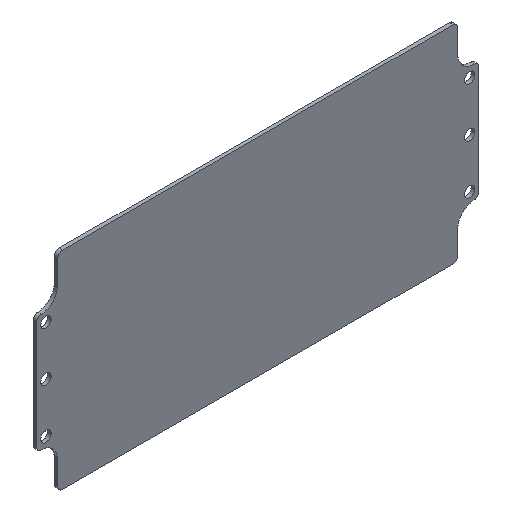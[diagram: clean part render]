
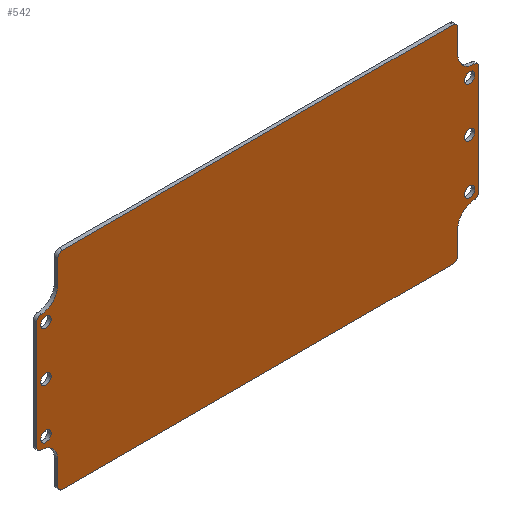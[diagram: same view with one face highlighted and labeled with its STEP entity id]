
A CAD part, isometric view. The second image highlights one B-rep face of the part: STEP entity #542.
In plain terms, the highlighted planar face has unit normal (0, -1, 0).
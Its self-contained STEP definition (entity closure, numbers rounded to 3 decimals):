
#15=FACE_BOUND('',#79,.T.);
#16=FACE_BOUND('',#80,.T.);
#17=FACE_BOUND('',#81,.T.);
#18=FACE_BOUND('',#82,.T.);
#19=FACE_BOUND('',#83,.T.);
#20=FACE_BOUND('',#84,.T.);
#29=PLANE('',#615);
#50=FACE_OUTER_BOUND('',#78,.T.);
#78=EDGE_LOOP('',(#407,#408,#409,#410,#411,#412,#413,#414,#415,#416,#417,
#418,#419,#420,#421,#422,#423,#424,#425,#426));
#79=EDGE_LOOP('',(#427));
#80=EDGE_LOOP('',(#428));
#81=EDGE_LOOP('',(#429));
#82=EDGE_LOOP('',(#430));
#83=EDGE_LOOP('',(#431));
#84=EDGE_LOOP('',(#432));
#113=LINE('',#864,#155);
#120=LINE('',#888,#162);
#126=LINE('',#909,#168);
#127=LINE('',#912,#169);
#128=LINE('',#916,#170);
#129=LINE('',#921,#171);
#130=LINE('',#924,#172);
#131=LINE('',#928,#173);
#155=VECTOR('',#698,10.);
#162=VECTOR('',#719,10.);
#168=VECTOR('',#739,10.);
#169=VECTOR('',#742,10.);
#170=VECTOR('',#745,10.);
#171=VECTOR('',#750,10.);
#172=VECTOR('',#753,10.);
#173=VECTOR('',#756,10.);
#190=CIRCLE('',#582,2.2);
#192=CIRCLE('',#585,2.2);
#194=CIRCLE('',#588,2.2);
#196=CIRCLE('',#591,2.2);
#198=CIRCLE('',#594,2.2);
#200=CIRCLE('',#597,2.2);
#201=CIRCLE('',#599,7.);
#203=CIRCLE('',#603,7.);
#205=CIRCLE('',#606,7.);
#207=CIRCLE('',#610,7.);
#210=CIRCLE('',#614,2.);
#211=CIRCLE('',#616,2.);
#212=CIRCLE('',#617,2.);
#213=CIRCLE('',#618,2.);
#214=CIRCLE('',#619,2.);
#215=CIRCLE('',#620,2.);
#216=CIRCLE('',#621,2.);
#217=CIRCLE('',#622,2.);
#226=VERTEX_POINT('',#820);
#228=VERTEX_POINT('',#826);
#230=VERTEX_POINT('',#832);
#232=VERTEX_POINT('',#838);
#234=VERTEX_POINT('',#844);
#236=VERTEX_POINT('',#850);
#237=VERTEX_POINT('',#854);
#238=VERTEX_POINT('',#855);
#241=VERTEX_POINT('',#863);
#243=VERTEX_POINT('',#869);
#244=VERTEX_POINT('',#870);
#247=VERTEX_POINT('',#878);
#248=VERTEX_POINT('',#879);
#251=VERTEX_POINT('',#887);
#253=VERTEX_POINT('',#893);
#254=VERTEX_POINT('',#894);
#258=VERTEX_POINT('',#904);
#259=VERTEX_POINT('',#908);
#260=VERTEX_POINT('',#911);
#261=VERTEX_POINT('',#913);
#262=VERTEX_POINT('',#915);
#263=VERTEX_POINT('',#918);
#264=VERTEX_POINT('',#920);
#265=VERTEX_POINT('',#923);
#266=VERTEX_POINT('',#925);
#267=VERTEX_POINT('',#927);
#279=EDGE_CURVE('',#226,#226,#190,.T.);
#282=EDGE_CURVE('',#228,#228,#192,.T.);
#285=EDGE_CURVE('',#230,#230,#194,.T.);
#288=EDGE_CURVE('',#232,#232,#196,.T.);
#291=EDGE_CURVE('',#234,#234,#198,.T.);
#294=EDGE_CURVE('',#236,#236,#200,.T.);
#295=EDGE_CURVE('',#237,#238,#201,.T.);
#299=EDGE_CURVE('',#238,#241,#113,.T.);
#302=EDGE_CURVE('',#243,#244,#203,.T.);
#306=EDGE_CURVE('',#247,#248,#205,.T.);
#310=EDGE_CURVE('',#248,#251,#120,.T.);
#313=EDGE_CURVE('',#253,#254,#207,.T.);
#319=EDGE_CURVE('',#258,#237,#210,.T.);
#320=EDGE_CURVE('',#259,#258,#126,.T.);
#321=EDGE_CURVE('',#244,#259,#211,.T.);
#322=EDGE_CURVE('',#260,#243,#127,.T.);
#323=EDGE_CURVE('',#261,#260,#212,.T.);
#324=EDGE_CURVE('',#262,#261,#128,.T.);
#325=EDGE_CURVE('',#251,#262,#213,.T.);
#326=EDGE_CURVE('',#263,#247,#214,.T.);
#327=EDGE_CURVE('',#264,#263,#129,.T.);
#328=EDGE_CURVE('',#254,#264,#215,.T.);
#329=EDGE_CURVE('',#265,#253,#130,.T.);
#330=EDGE_CURVE('',#266,#265,#216,.T.);
#331=EDGE_CURVE('',#267,#266,#131,.T.);
#332=EDGE_CURVE('',#241,#267,#217,.T.);
#407=ORIENTED_EDGE('',*,*,#319,.F.);
#408=ORIENTED_EDGE('',*,*,#320,.F.);
#409=ORIENTED_EDGE('',*,*,#321,.F.);
#410=ORIENTED_EDGE('',*,*,#302,.F.);
#411=ORIENTED_EDGE('',*,*,#322,.F.);
#412=ORIENTED_EDGE('',*,*,#323,.F.);
#413=ORIENTED_EDGE('',*,*,#324,.F.);
#414=ORIENTED_EDGE('',*,*,#325,.F.);
#415=ORIENTED_EDGE('',*,*,#310,.F.);
#416=ORIENTED_EDGE('',*,*,#306,.F.);
#417=ORIENTED_EDGE('',*,*,#326,.F.);
#418=ORIENTED_EDGE('',*,*,#327,.F.);
#419=ORIENTED_EDGE('',*,*,#328,.F.);
#420=ORIENTED_EDGE('',*,*,#313,.F.);
#421=ORIENTED_EDGE('',*,*,#329,.F.);
#422=ORIENTED_EDGE('',*,*,#330,.F.);
#423=ORIENTED_EDGE('',*,*,#331,.F.);
#424=ORIENTED_EDGE('',*,*,#332,.F.);
#425=ORIENTED_EDGE('',*,*,#299,.F.);
#426=ORIENTED_EDGE('',*,*,#295,.F.);
#427=ORIENTED_EDGE('',*,*,#279,.T.);
#428=ORIENTED_EDGE('',*,*,#282,.T.);
#429=ORIENTED_EDGE('',*,*,#285,.T.);
#430=ORIENTED_EDGE('',*,*,#288,.T.);
#431=ORIENTED_EDGE('',*,*,#291,.T.);
#432=ORIENTED_EDGE('',*,*,#294,.T.);
#542=ADVANCED_FACE('',(#50,#15,#16,#17,#18,#19,#20),#29,.F.);
#582=AXIS2_PLACEMENT_3D('',#822,#651,#652);
#585=AXIS2_PLACEMENT_3D('',#828,#658,#659);
#588=AXIS2_PLACEMENT_3D('',#834,#665,#666);
#591=AXIS2_PLACEMENT_3D('',#840,#672,#673);
#594=AXIS2_PLACEMENT_3D('',#846,#679,#680);
#597=AXIS2_PLACEMENT_3D('',#852,#686,#687);
#599=AXIS2_PLACEMENT_3D('',#856,#690,#691);
#603=AXIS2_PLACEMENT_3D('',#871,#703,#704);
#606=AXIS2_PLACEMENT_3D('',#880,#711,#712);
#610=AXIS2_PLACEMENT_3D('',#895,#724,#725);
#614=AXIS2_PLACEMENT_3D('',#906,#735,#736);
#615=AXIS2_PLACEMENT_3D('',#907,#737,#738);
#616=AXIS2_PLACEMENT_3D('',#910,#740,#741);
#617=AXIS2_PLACEMENT_3D('',#914,#743,#744);
#618=AXIS2_PLACEMENT_3D('',#917,#746,#747);
#619=AXIS2_PLACEMENT_3D('',#919,#748,#749);
#620=AXIS2_PLACEMENT_3D('',#922,#751,#752);
#621=AXIS2_PLACEMENT_3D('',#926,#754,#755);
#622=AXIS2_PLACEMENT_3D('',#929,#757,#758);
#651=DIRECTION('center_axis',(0.,1.,0.));
#652=DIRECTION('ref_axis',(1.,0.,0.));
#658=DIRECTION('center_axis',(0.,1.,0.));
#659=DIRECTION('ref_axis',(1.,0.,0.));
#665=DIRECTION('center_axis',(0.,1.,0.));
#666=DIRECTION('ref_axis',(1.,0.,0.));
#672=DIRECTION('center_axis',(0.,1.,0.));
#673=DIRECTION('ref_axis',(1.,0.,0.));
#679=DIRECTION('center_axis',(0.,1.,0.));
#680=DIRECTION('ref_axis',(1.,0.,0.));
#686=DIRECTION('center_axis',(0.,1.,0.));
#687=DIRECTION('ref_axis',(1.,0.,0.));
#690=DIRECTION('center_axis',(0.,-1.,0.));
#691=DIRECTION('ref_axis',(0.707,0.,-0.707));
#698=DIRECTION('',(0.,0.,1.));
#703=DIRECTION('center_axis',(0.,-1.,0.));
#704=DIRECTION('ref_axis',(0.707,0.,0.707));
#711=DIRECTION('center_axis',(0.,-1.,0.));
#712=DIRECTION('ref_axis',(-0.707,0.,0.707));
#719=DIRECTION('',(0.,0.,-1.));
#724=DIRECTION('center_axis',(0.,-1.,0.));
#725=DIRECTION('ref_axis',(-0.707,0.,-0.707));
#735=DIRECTION('center_axis',(0.,1.,0.));
#736=DIRECTION('ref_axis',(-0.707,0.,0.707));
#737=DIRECTION('center_axis',(0.,1.,0.));
#738=DIRECTION('ref_axis',(0.,0.,1.));
#739=DIRECTION('',(0.,0.,1.));
#740=DIRECTION('center_axis',(0.,1.,0.));
#741=DIRECTION('ref_axis',(-0.707,0.,-0.707));
#742=DIRECTION('',(0.,0.,1.));
#743=DIRECTION('center_axis',(0.,1.,0.));
#744=DIRECTION('ref_axis',(-0.707,0.,-0.707));
#745=DIRECTION('',(-1.,0.,0.));
#746=DIRECTION('center_axis',(0.,1.,0.));
#747=DIRECTION('ref_axis',(0.707,0.,-0.707));
#748=DIRECTION('center_axis',(0.,1.,0.));
#749=DIRECTION('ref_axis',(0.707,0.,-0.707));
#750=DIRECTION('',(0.,0.,-1.));
#751=DIRECTION('center_axis',(0.,1.,0.));
#752=DIRECTION('ref_axis',(0.707,0.,0.707));
#753=DIRECTION('',(0.,0.,-1.));
#754=DIRECTION('center_axis',(0.,1.,0.));
#755=DIRECTION('ref_axis',(0.707,0.,0.707));
#756=DIRECTION('',(1.,0.,0.));
#757=DIRECTION('center_axis',(0.,1.,0.));
#758=DIRECTION('ref_axis',(-0.707,0.,0.707));
#820=CARTESIAN_POINT('',(87.8,0.,-21.));
#822=CARTESIAN_POINT('Origin',(90.,0.,-21.));
#826=CARTESIAN_POINT('',(87.8,0.,0.));
#828=CARTESIAN_POINT('Origin',(90.,0.,0.));
#832=CARTESIAN_POINT('',(87.8,0.,21.));
#834=CARTESIAN_POINT('Origin',(90.,0.,21.));
#838=CARTESIAN_POINT('',(-92.2,0.,21.));
#840=CARTESIAN_POINT('Origin',(-90.,0.,21.));
#844=CARTESIAN_POINT('',(-92.2,0.,0.));
#846=CARTESIAN_POINT('Origin',(-90.,0.,0.));
#850=CARTESIAN_POINT('',(-92.2,0.,-21.));
#852=CARTESIAN_POINT('Origin',(-90.,0.,-21.));
#854=CARTESIAN_POINT('',(-92.,0.,25.));
#855=CARTESIAN_POINT('',(-85.,0.,32.));
#856=CARTESIAN_POINT('Origin',(-92.,0.,32.));
#863=CARTESIAN_POINT('',(-85.,0.,42.));
#864=CARTESIAN_POINT('',(-85.,0.,-44.));
#869=CARTESIAN_POINT('',(-85.,0.,-32.));
#870=CARTESIAN_POINT('',(-92.,0.,-25.));
#871=CARTESIAN_POINT('Origin',(-92.,0.,-32.));
#878=CARTESIAN_POINT('',(92.,0.,-25.));
#879=CARTESIAN_POINT('',(85.,0.,-32.));
#880=CARTESIAN_POINT('Origin',(92.,0.,-32.));
#887=CARTESIAN_POINT('',(85.,0.,-42.));
#888=CARTESIAN_POINT('',(85.,0.,44.));
#893=CARTESIAN_POINT('',(85.,0.,32.));
#894=CARTESIAN_POINT('',(92.,0.,25.));
#895=CARTESIAN_POINT('Origin',(92.,0.,32.));
#904=CARTESIAN_POINT('',(-94.,0.,23.));
#906=CARTESIAN_POINT('Origin',(-92.,0.,23.));
#907=CARTESIAN_POINT('Origin',(0.,0.,0.));
#908=CARTESIAN_POINT('',(-94.,0.,-23.));
#909=CARTESIAN_POINT('',(-94.,0.,-25.));
#910=CARTESIAN_POINT('Origin',(-92.,0.,-23.));
#911=CARTESIAN_POINT('',(-85.,0.,-42.));
#912=CARTESIAN_POINT('',(-85.,0.,-44.));
#913=CARTESIAN_POINT('',(-83.,0.,-44.));
#914=CARTESIAN_POINT('Origin',(-83.,0.,-42.));
#915=CARTESIAN_POINT('',(83.,0.,-44.));
#916=CARTESIAN_POINT('',(85.,0.,-44.));
#917=CARTESIAN_POINT('Origin',(83.,0.,-42.));
#918=CARTESIAN_POINT('',(94.,0.,-23.));
#919=CARTESIAN_POINT('Origin',(92.,0.,-23.));
#920=CARTESIAN_POINT('',(94.,0.,23.));
#921=CARTESIAN_POINT('',(94.,0.,25.));
#922=CARTESIAN_POINT('Origin',(92.,0.,23.));
#923=CARTESIAN_POINT('',(85.,0.,42.));
#924=CARTESIAN_POINT('',(85.,0.,44.));
#925=CARTESIAN_POINT('',(83.,0.,44.));
#926=CARTESIAN_POINT('Origin',(83.,0.,42.));
#927=CARTESIAN_POINT('',(-83.,0.,44.));
#928=CARTESIAN_POINT('',(-85.,0.,44.));
#929=CARTESIAN_POINT('Origin',(-83.,0.,42.));
